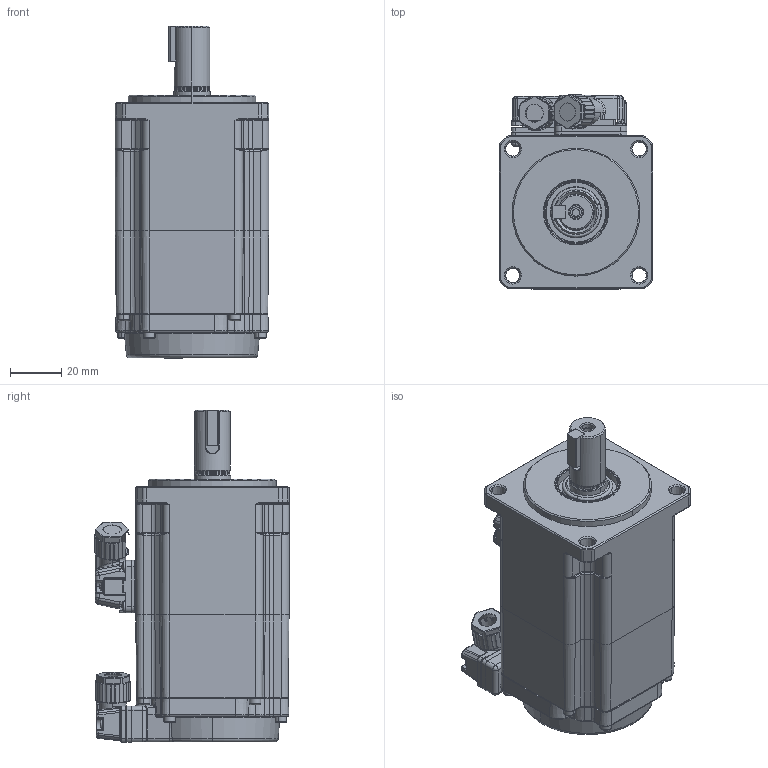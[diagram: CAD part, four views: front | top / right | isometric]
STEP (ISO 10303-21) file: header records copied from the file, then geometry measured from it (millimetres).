
FILE_DESCRIPTION (( 'STEP AP214' ), '1' );
FILE_NAME ('60x60-200W伺服电机带制动器_通用外形图_A0.STEP', '2023-09-15T01:20:22', ( '' ), ( '' ), 'SwSTEP 2.0', 'SolidWorks 2020', '' );
FILE_SCHEMA (( 'AUTOMOTIVE_DESIGN' ));
Length unit declared in the file: millimetre
Products named in the file (1): 60x60-200W伺服电机带制动器_通用外形图_A0
Bounding box: 60 x 75.95 x 129.9 mm (x, y, z)
Surface area: 38537.7 mm2 (no closed solid volume)
Topology: 0 solids, 31 shells, 1390 faces, 4802 edges, 3257 vertices
Faces by surface type: plane 477, cylinder 438, torus 220, bspline 122, cone 105, sphere 28
Entity records: 73791 total; most frequent: CARTESIAN_POINT 19436, DIRECTION 7821, ORIENTED_EDGE 7753, EDGE_CURVE 4764, VERTEX_POINT 3257, AXIS2_PLACEMENT_3D 2833, LINE 2155, VECTOR 2155
